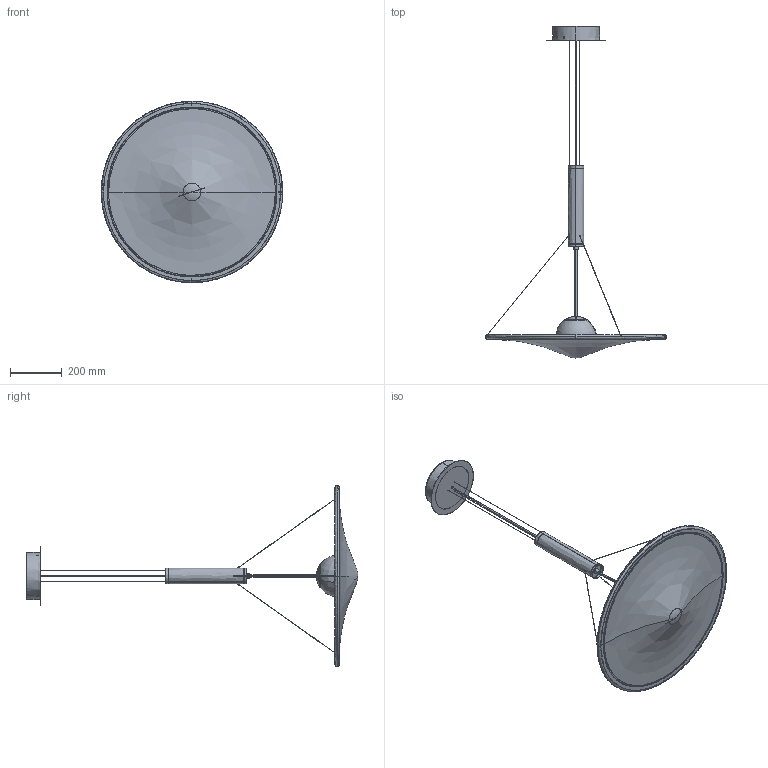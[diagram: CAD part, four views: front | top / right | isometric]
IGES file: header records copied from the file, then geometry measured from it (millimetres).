
Start section: SolidWorks IGES file using analytic representation for surfaces
Global section: file name: D:\OneDrive\R&D\3D\MANTO\700down.IGS; native system: SolidWorks 2019; preprocessor: SolidWorks 2019; author: tecnico8; date: 190725.172315; units: millimetre
Bounding box: 700.99 x 1282.99 x 700.98 mm (x, y, z)
Surface area: 1211256.7 mm2 (no closed solid volume)
Topology: 0 solids, 0 shells, 849 faces, 12664 edges, 12649 vertices
Faces by surface type: revolution 481, bspline 368
